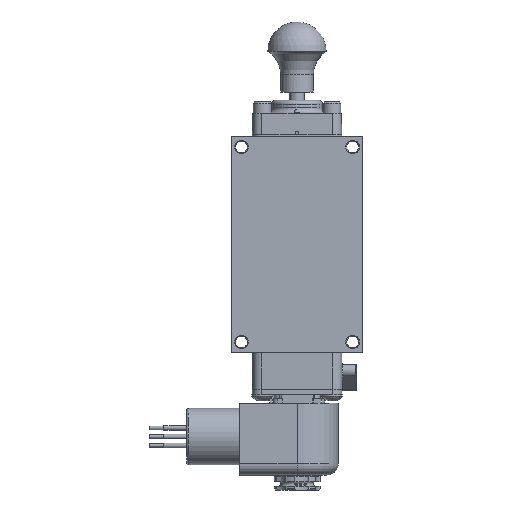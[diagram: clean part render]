
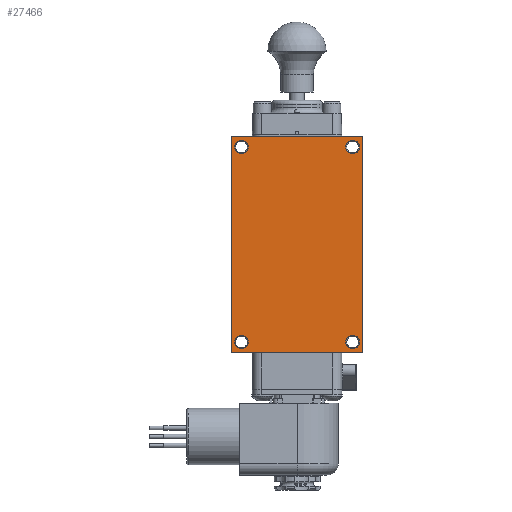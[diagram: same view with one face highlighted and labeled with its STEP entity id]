
A CAD part, front view. The second image highlights one B-rep face of the part: STEP entity #27466.
In plain terms, the highlighted planar face has unit normal (0, -1, 0).
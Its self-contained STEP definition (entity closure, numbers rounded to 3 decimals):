
#1152=FACE_BOUND('',#4378,.T.);
#1153=FACE_BOUND('',#4379,.T.);
#1154=FACE_BOUND('',#4380,.T.);
#1155=FACE_BOUND('',#4381,.T.);
#1577=PLANE('',#29828);
#2681=FACE_OUTER_BOUND('',#4377,.T.);
#4377=EDGE_LOOP('',(#20538,#20539,#20540,#20541));
#4378=EDGE_LOOP('',(#20542));
#4379=EDGE_LOOP('',(#20543));
#4380=EDGE_LOOP('',(#20544));
#4381=EDGE_LOOP('',(#20545));
#6101=CIRCLE('',#29817,0.296);
#6103=CIRCLE('',#29821,0.296);
#6105=CIRCLE('',#29825,0.296);
#6107=CIRCLE('',#29829,0.296);
#7660=LINE('',#44301,#9650);
#7661=LINE('',#44303,#9651);
#7662=LINE('',#44305,#9652);
#7663=LINE('',#44306,#9653);
#9650=VECTOR('',#35104,1.);
#9651=VECTOR('',#35105,1.);
#9652=VECTOR('',#35106,1.);
#9653=VECTOR('',#35107,1.);
#11858=VERTEX_POINT('',#44275);
#11860=VERTEX_POINT('',#44283);
#11862=VERTEX_POINT('',#44291);
#11864=VERTEX_POINT('',#44299);
#11865=VERTEX_POINT('',#44300);
#11866=VERTEX_POINT('',#44302);
#11867=VERTEX_POINT('',#44304);
#11868=VERTEX_POINT('',#44307);
#14962=EDGE_CURVE('',#11858,#11858,#6101,.T.);
#14966=EDGE_CURVE('',#11860,#11860,#6103,.T.);
#14970=EDGE_CURVE('',#11862,#11862,#6105,.T.);
#14974=EDGE_CURVE('',#11864,#11865,#7660,.T.);
#14975=EDGE_CURVE('',#11866,#11864,#7661,.T.);
#14976=EDGE_CURVE('',#11867,#11866,#7662,.T.);
#14977=EDGE_CURVE('',#11865,#11867,#7663,.T.);
#14978=EDGE_CURVE('',#11868,#11868,#6107,.T.);
#20538=ORIENTED_EDGE('',*,*,#14974,.F.);
#20539=ORIENTED_EDGE('',*,*,#14975,.F.);
#20540=ORIENTED_EDGE('',*,*,#14976,.F.);
#20541=ORIENTED_EDGE('',*,*,#14977,.F.);
#20542=ORIENTED_EDGE('',*,*,#14970,.F.);
#20543=ORIENTED_EDGE('',*,*,#14962,.F.);
#20544=ORIENTED_EDGE('',*,*,#14966,.F.);
#20545=ORIENTED_EDGE('',*,*,#14978,.F.);
#27466=ADVANCED_FACE('',(#2681,#1152,#1153,#1154,#1155),#1577,.F.);
#29817=AXIS2_PLACEMENT_3D('',#44276,#35074,#35075);
#29821=AXIS2_PLACEMENT_3D('',#44284,#35084,#35085);
#29825=AXIS2_PLACEMENT_3D('',#44292,#35094,#35095);
#29828=AXIS2_PLACEMENT_3D('',#44298,#35102,#35103);
#29829=AXIS2_PLACEMENT_3D('',#44308,#35108,#35109);
#35074=DIRECTION('center_axis',(0.,-1.,0.));
#35075=DIRECTION('ref_axis',(1.,0.,0.));
#35084=DIRECTION('center_axis',(0.,-1.,0.));
#35085=DIRECTION('ref_axis',(1.,0.,0.));
#35094=DIRECTION('center_axis',(0.,-1.,0.));
#35095=DIRECTION('ref_axis',(1.,0.,0.));
#35102=DIRECTION('center_axis',(0.,1.,0.));
#35103=DIRECTION('ref_axis',(0.,0.,1.));
#35104=DIRECTION('',(0.,0.,-1.));
#35105=DIRECTION('',(1.,0.,0.));
#35106=DIRECTION('',(0.,0.,1.));
#35107=DIRECTION('',(-1.,0.,0.));
#35108=DIRECTION('center_axis',(0.,-1.,0.));
#35109=DIRECTION('ref_axis',(1.,0.,0.));
#44275=CARTESIAN_POINT('',(2.125,-1.636,-4.247));
#44276=CARTESIAN_POINT('Origin',(2.421,-1.636,-4.247));
#44283=CARTESIAN_POINT('',(-2.717,-1.636,-4.247));
#44284=CARTESIAN_POINT('Origin',(-2.421,-1.636,-4.247));
#44291=CARTESIAN_POINT('',(-2.717,-1.636,4.247));
#44292=CARTESIAN_POINT('Origin',(-2.421,-1.636,4.247));
#44298=CARTESIAN_POINT('Origin',(0.,-1.636,0.));
#44299=CARTESIAN_POINT('',(2.858,-1.636,4.71));
#44300=CARTESIAN_POINT('',(2.858,-1.636,-4.71));
#44301=CARTESIAN_POINT('',(2.858,-1.636,-4.71));
#44302=CARTESIAN_POINT('',(-2.858,-1.636,4.71));
#44303=CARTESIAN_POINT('',(2.858,-1.636,4.71));
#44304=CARTESIAN_POINT('',(-2.858,-1.636,-4.71));
#44305=CARTESIAN_POINT('',(-2.858,-1.636,4.71));
#44306=CARTESIAN_POINT('',(-2.858,-1.636,-4.71));
#44307=CARTESIAN_POINT('',(2.125,-1.636,4.247));
#44308=CARTESIAN_POINT('Origin',(2.421,-1.636,4.247));
